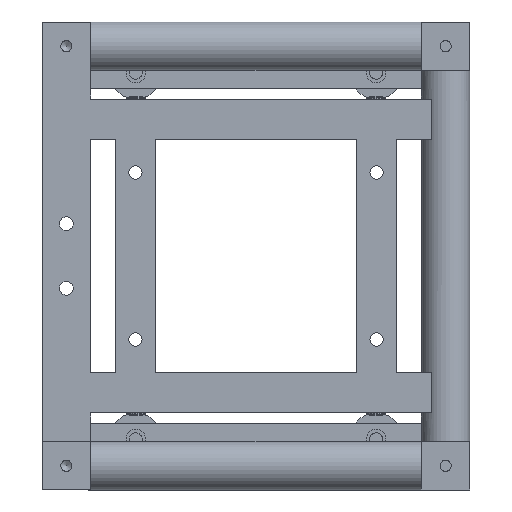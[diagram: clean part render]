
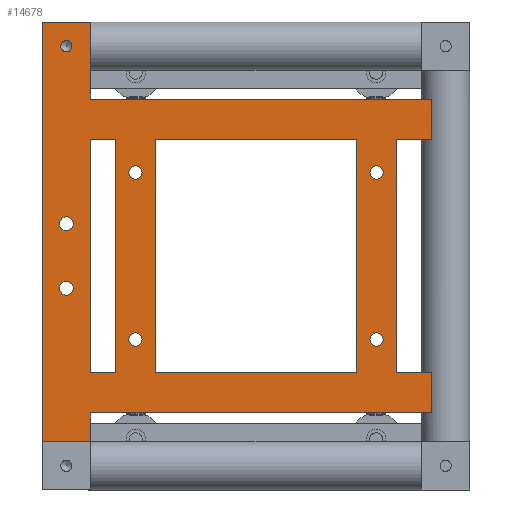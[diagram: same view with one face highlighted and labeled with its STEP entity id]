
A CAD part, left-side view. The second image highlights one B-rep face of the part: STEP entity #14678.
In plain terms, the highlighted planar face has unit normal (-1, 0, 0).
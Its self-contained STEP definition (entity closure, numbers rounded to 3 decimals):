
#241=LINE('',#22577,#1018);
#242=LINE('',#22580,#1019);
#265=LINE('',#22647,#1042);
#269=LINE('',#22654,#1046);
#391=LINE('',#23008,#1168);
#395=LINE('',#23015,#1172);
#495=LINE('',#23259,#1272);
#504=LINE('',#23274,#1281);
#505=LINE('',#23277,#1282);
#508=LINE('',#23281,#1285);
#509=LINE('',#23282,#1286);
#511=LINE('',#23288,#1288);
#603=LINE('',#23462,#1380);
#611=LINE('',#23476,#1388);
#612=LINE('',#23477,#1389);
#614=LINE('',#23479,#1391);
#615=LINE('',#23482,#1392);
#619=LINE('',#23491,#1396);
#803=LINE('',#24071,#1580);
#863=LINE('',#24460,#1640);
#868=LINE('',#24483,#1645);
#1018=VECTOR('',#18607,30.);
#1019=VECTOR('',#18610,65.5);
#1042=VECTOR('',#18669,289.);
#1046=VECTOR('',#18675,289.);
#1168=VECTOR('',#19005,289.);
#1172=VECTOR('',#19011,289.);
#1272=VECTOR('',#19235,50.);
#1281=VECTOR('',#19252,423.);
#1282=VECTOR('',#19255,30.5);
#1285=VECTOR('',#19258,43.5);
#1286=VECTOR('',#19259,249.);
#1288=VECTOR('',#19267,289.);
#1380=VECTOR('',#19421,50.);
#1388=VECTOR('',#19437,249.);
#1389=VECTOR('',#19438,43.5);
#1391=VECTOR('',#19440,30.5);
#1392=VECTOR('',#19443,423.);
#1396=VECTOR('',#19453,35.5);
#1580=VECTOR('',#20071,60.);
#1640=VECTOR('',#20531,60.);
#1645=VECTOR('',#20562,520.);
#2200=PLANE('',#16392);
#2904=FACE_BOUND('',#5425,.T.);
#2905=FACE_BOUND('',#5426,.T.);
#2906=FACE_BOUND('',#5427,.T.);
#2907=FACE_BOUND('',#5428,.T.);
#2908=FACE_BOUND('',#5429,.T.);
#2909=FACE_BOUND('',#5430,.T.);
#2910=FACE_BOUND('',#5431,.T.);
#2911=FACE_BOUND('',#5432,.T.);
#2912=FACE_BOUND('',#5433,.T.);
#3831=FACE_OUTER_BOUND('',#5424,.T.);
#5424=EDGE_LOOP('',(#12121,#12122,#12123,#12124,#12125,#12126,#12127,#12128,
#12129,#12130,#12131,#12132,#12133));
#5425=EDGE_LOOP('',(#12134,#12135,#12136,#12137));
#5426=EDGE_LOOP('',(#12138));
#5427=EDGE_LOOP('',(#12139));
#5428=EDGE_LOOP('',(#12140));
#5429=EDGE_LOOP('',(#12141));
#5430=EDGE_LOOP('',(#12142));
#5431=EDGE_LOOP('',(#12143));
#5432=EDGE_LOOP('',(#12144));
#5433=EDGE_LOOP('',(#12145,#12146,#12147,#12148));
#6088=CIRCLE('',#15731,8.25);
#6092=CIRCLE('',#15737,8.25);
#6128=CIRCLE('',#15836,8.25);
#6132=CIRCLE('',#15842,8.25);
#6310=CIRCLE('',#16358,6.918);
#6317=CIRCLE('',#16386,8.5);
#6319=CIRCLE('',#16389,8.5);
#6922=VERTEX_POINT('',#22571);
#6923=VERTEX_POINT('',#22575);
#6924=VERTEX_POINT('',#22579);
#6929=VERTEX_POINT('',#22591);
#6933=VERTEX_POINT('',#22601);
#6949=VERTEX_POINT('',#22644);
#6950=VERTEX_POINT('',#22646);
#6951=VERTEX_POINT('',#22650);
#6952=VERTEX_POINT('',#22652);
#7059=VERTEX_POINT('',#22952);
#7063=VERTEX_POINT('',#22962);
#7079=VERTEX_POINT('',#23005);
#7080=VERTEX_POINT('',#23007);
#7081=VERTEX_POINT('',#23011);
#7082=VERTEX_POINT('',#23013);
#7163=VERTEX_POINT('',#23256);
#7164=VERTEX_POINT('',#23258);
#7167=VERTEX_POINT('',#23276);
#7169=VERTEX_POINT('',#23287);
#7219=VERTEX_POINT('',#23459);
#7220=VERTEX_POINT('',#23461);
#7223=VERTEX_POINT('',#23481);
#7225=VERTEX_POINT('',#23490);
#7404=VERTEX_POINT('',#24070);
#7524=VERTEX_POINT('',#24424);
#7533=VERTEX_POINT('',#24458);
#7535=VERTEX_POINT('',#24471);
#7537=VERTEX_POINT('',#24476);
#8237=EDGE_CURVE('',#6922,#6923,#241,.T.);
#8238=EDGE_CURVE('',#6924,#6922,#242,.T.);
#8244=EDGE_CURVE('',#6929,#6929,#6088,.T.);
#8248=EDGE_CURVE('',#6933,#6933,#6092,.T.);
#8269=EDGE_CURVE('',#6950,#6949,#265,.T.);
#8273=EDGE_CURVE('',#6952,#6951,#269,.T.);
#8410=EDGE_CURVE('',#7059,#7059,#6128,.T.);
#8414=EDGE_CURVE('',#7063,#7063,#6132,.T.);
#8435=EDGE_CURVE('',#7080,#7079,#391,.T.);
#8439=EDGE_CURVE('',#7082,#7081,#395,.T.);
#8555=EDGE_CURVE('',#7164,#7163,#495,.T.);
#8564=EDGE_CURVE('',#7163,#6924,#504,.T.);
#8565=EDGE_CURVE('',#6951,#7167,#505,.T.);
#8568=EDGE_CURVE('',#7164,#7079,#508,.T.);
#8569=EDGE_CURVE('',#7081,#6949,#509,.T.);
#8571=EDGE_CURVE('',#7169,#7167,#511,.T.);
#8663=EDGE_CURVE('',#7220,#7219,#603,.T.);
#8671=EDGE_CURVE('',#7082,#6950,#611,.T.);
#8672=EDGE_CURVE('',#7219,#7080,#612,.T.);
#8674=EDGE_CURVE('',#6952,#7169,#614,.T.);
#8675=EDGE_CURVE('',#7220,#7223,#615,.T.);
#8679=EDGE_CURVE('',#7225,#7223,#619,.T.);
#8952=EDGE_CURVE('',#7225,#7404,#803,.T.);
#9113=EDGE_CURVE('',#7524,#7524,#6310,.T.);
#9124=EDGE_CURVE('',#6923,#7533,#863,.T.);
#9128=EDGE_CURVE('',#7535,#7535,#6317,.T.);
#9130=EDGE_CURVE('',#7537,#7537,#6319,.T.);
#9133=EDGE_CURVE('',#7404,#7533,#868,.T.);
#12121=ORIENTED_EDGE('',*,*,#8568,.F.);
#12122=ORIENTED_EDGE('',*,*,#8555,.T.);
#12123=ORIENTED_EDGE('',*,*,#8564,.T.);
#12124=ORIENTED_EDGE('',*,*,#8238,.T.);
#12125=ORIENTED_EDGE('',*,*,#8237,.T.);
#12126=ORIENTED_EDGE('',*,*,#9124,.T.);
#12127=ORIENTED_EDGE('',*,*,#9133,.F.);
#12128=ORIENTED_EDGE('',*,*,#8952,.F.);
#12129=ORIENTED_EDGE('',*,*,#8679,.T.);
#12130=ORIENTED_EDGE('',*,*,#8675,.F.);
#12131=ORIENTED_EDGE('',*,*,#8663,.T.);
#12132=ORIENTED_EDGE('',*,*,#8672,.T.);
#12133=ORIENTED_EDGE('',*,*,#8435,.T.);
#12134=ORIENTED_EDGE('',*,*,#8569,.F.);
#12135=ORIENTED_EDGE('',*,*,#8439,.F.);
#12136=ORIENTED_EDGE('',*,*,#8671,.T.);
#12137=ORIENTED_EDGE('',*,*,#8269,.T.);
#12138=ORIENTED_EDGE('',*,*,#8248,.T.);
#12139=ORIENTED_EDGE('',*,*,#8244,.T.);
#12140=ORIENTED_EDGE('',*,*,#8414,.T.);
#12141=ORIENTED_EDGE('',*,*,#8410,.T.);
#12142=ORIENTED_EDGE('',*,*,#9113,.T.);
#12143=ORIENTED_EDGE('',*,*,#9128,.T.);
#12144=ORIENTED_EDGE('',*,*,#9130,.T.);
#12145=ORIENTED_EDGE('',*,*,#8273,.F.);
#12146=ORIENTED_EDGE('',*,*,#8674,.T.);
#12147=ORIENTED_EDGE('',*,*,#8571,.T.);
#12148=ORIENTED_EDGE('',*,*,#8565,.F.);
#14678=ADVANCED_FACE('',(#3831,#2904,#2905,#2906,#2907,#2908,#2909,#2910,
#2911,#2912),#2200,.T.);
#15731=AXIS2_PLACEMENT_3D('',#22592,#18618,#18619);
#15737=AXIS2_PLACEMENT_3D('',#22602,#18630,#18631);
#15836=AXIS2_PLACEMENT_3D('',#22953,#18954,#18955);
#15842=AXIS2_PLACEMENT_3D('',#22963,#18966,#18967);
#16358=AXIS2_PLACEMENT_3D('',#24425,#20483,#20484);
#16386=AXIS2_PLACEMENT_3D('',#24472,#20547,#20548);
#16389=AXIS2_PLACEMENT_3D('',#24477,#20553,#20554);
#16392=AXIS2_PLACEMENT_3D('',#24482,#20560,#20561);
#18607=DIRECTION('',(0.,0.,1.));
#18610=DIRECTION('',(0.,0.,1.));
#18618=DIRECTION('center_axis',(1.,0.,0.));
#18619=DIRECTION('ref_axis',(0.,0.,
1.));
#18630=DIRECTION('center_axis',(1.,0.,0.));
#18631=DIRECTION('ref_axis',(0.,0.,
1.));
#18669=DIRECTION('',(0.,0.,1.));
#18675=DIRECTION('',(0.,0.,1.));
#18954=DIRECTION('center_axis',(1.,0.,0.));
#18955=DIRECTION('ref_axis',(0.,0.,
1.));
#18966=DIRECTION('center_axis',(1.,0.,0.));
#18967=DIRECTION('ref_axis',(0.,0.,
1.));
#19005=DIRECTION('',(0.,0.,1.));
#19011=DIRECTION('',(0.,0.,1.));
#19235=DIRECTION('',(0.,0.,1.));
#19252=DIRECTION('',(0.,1.,0.));
#19255=DIRECTION('',(0.,1.,0.));
#19258=DIRECTION('',(0.,1.,0.));
#19259=DIRECTION('',(0.,1.,0.));
#19267=DIRECTION('',(0.,0.,1.));
#19421=DIRECTION('',(0.,0.,1.));
#19437=DIRECTION('',(0.,1.,0.));
#19438=DIRECTION('',(0.,1.,0.));
#19440=DIRECTION('',(0.,1.,0.));
#19443=DIRECTION('',(0.,1.,0.));
#19453=DIRECTION('',(0.,0.,1.));
#20071=DIRECTION('',(0.,1.,0.));
#20483=DIRECTION('center_axis',(1.,0.,0.));
#20484=DIRECTION('ref_axis',(0.,1.,0.));
#20531=DIRECTION('',(0.,1.,0.));
#20547=DIRECTION('center_axis',(1.,0.,0.));
#20548=DIRECTION('ref_axis',(0.,0.,-1.));
#20553=DIRECTION('center_axis',(1.,0.,0.));
#20554=DIRECTION('ref_axis',(0.,0.,-1.));
#20560=DIRECTION('center_axis',(-1.,0.,0.));
#20561=DIRECTION('ref_axis',(0.,-1.,0.));
#20562=DIRECTION('',(0.,0.,1.));
#22571=CARTESIAN_POINT('',(0.,0.,490.));
#22575=CARTESIAN_POINT('',(0.,0.,520.));
#22577=CARTESIAN_POINT('',(0.,0.,0.));
#22579=CARTESIAN_POINT('',(0.,0.,424.5));
#22580=CARTESIAN_POINT('',(0.,0.,0.));
#22591=CARTESIAN_POINT('',(0.,-55.5,118.25));
#22592=CARTESIAN_POINT('Origin',(0.,-55.5,126.5));
#22601=CARTESIAN_POINT('',(0.,-55.5,325.25));
#22602=CARTESIAN_POINT('Origin',(0.,-55.5,333.5));
#22644=CARTESIAN_POINT('',(0.,-80.5,374.5));
#22646=CARTESIAN_POINT('',(0.,-80.5,85.5));
#22647=CARTESIAN_POINT('',(0.,-80.5,85.5));
#22650=CARTESIAN_POINT('',(0.,-30.5,374.5));
#22652=CARTESIAN_POINT('',(0.,-30.5,85.5));
#22654=CARTESIAN_POINT('',(0.,-30.5,85.5));
#22952=CARTESIAN_POINT('',(0.,-354.5,118.25));
#22953=CARTESIAN_POINT('Origin',(0.,-354.5,126.5));
#22962=CARTESIAN_POINT('',(0.,-354.5,325.25));
#22963=CARTESIAN_POINT('Origin',(0.,-354.5,333.5));
#23005=CARTESIAN_POINT('',(0.,-379.5,374.5));
#23007=CARTESIAN_POINT('',(0.,-379.5,85.5));
#23008=CARTESIAN_POINT('',(0.,-379.5,85.5));
#23011=CARTESIAN_POINT('',(0.,-329.5,374.5));
#23013=CARTESIAN_POINT('',(0.,-329.5,85.5));
#23015=CARTESIAN_POINT('',(0.,-329.5,85.5));
#23256=CARTESIAN_POINT('',(0.,-423.,424.5));
#23258=CARTESIAN_POINT('',(0.,-423.,374.5));
#23259=CARTESIAN_POINT('',(0.,-423.,374.5));
#23274=CARTESIAN_POINT('',(0.,-423.,424.5));
#23276=CARTESIAN_POINT('',(0.,0.,374.5));
#23277=CARTESIAN_POINT('',(0.,-423.,374.5));
#23281=CARTESIAN_POINT('',(0.,-423.,374.5));
#23282=CARTESIAN_POINT('',(0.,-423.,374.5));
#23287=CARTESIAN_POINT('',(0.,0.,85.5));
#23288=CARTESIAN_POINT('',(0.,0.,0.));
#23459=CARTESIAN_POINT('',(0.,-423.,85.5));
#23461=CARTESIAN_POINT('',(0.,-423.,35.5));
#23462=CARTESIAN_POINT('',(0.,-423.,35.5));
#23476=CARTESIAN_POINT('',(0.,-423.,85.5));
#23477=CARTESIAN_POINT('',(0.,-423.,85.5));
#23479=CARTESIAN_POINT('',(0.,-423.,85.5));
#23481=CARTESIAN_POINT('',(0.,0.,35.5));
#23482=CARTESIAN_POINT('',(0.,-423.,35.5));
#23490=CARTESIAN_POINT('',(0.,0.,0.));
#23491=CARTESIAN_POINT('',(0.,0.,0.));
#24070=CARTESIAN_POINT('',(0.,60.,0.));
#24071=CARTESIAN_POINT('',(0.,0.,0.));
#24424=CARTESIAN_POINT('',(0.,36.918,490.));
#24425=CARTESIAN_POINT('Origin',(0.,30.,490.));
#24458=CARTESIAN_POINT('',(0.,60.,520.));
#24460=CARTESIAN_POINT('',(0.,0.,520.));
#24471=CARTESIAN_POINT('',(0.,30.,278.5));
#24472=CARTESIAN_POINT('Origin',(0.,30.,270.));
#24476=CARTESIAN_POINT('',(0.,30.,198.5));
#24477=CARTESIAN_POINT('Origin',(0.,30.,190.));
#24482=CARTESIAN_POINT('Origin',(0.,60.,0.));
#24483=CARTESIAN_POINT('',(0.,60.,0.));
